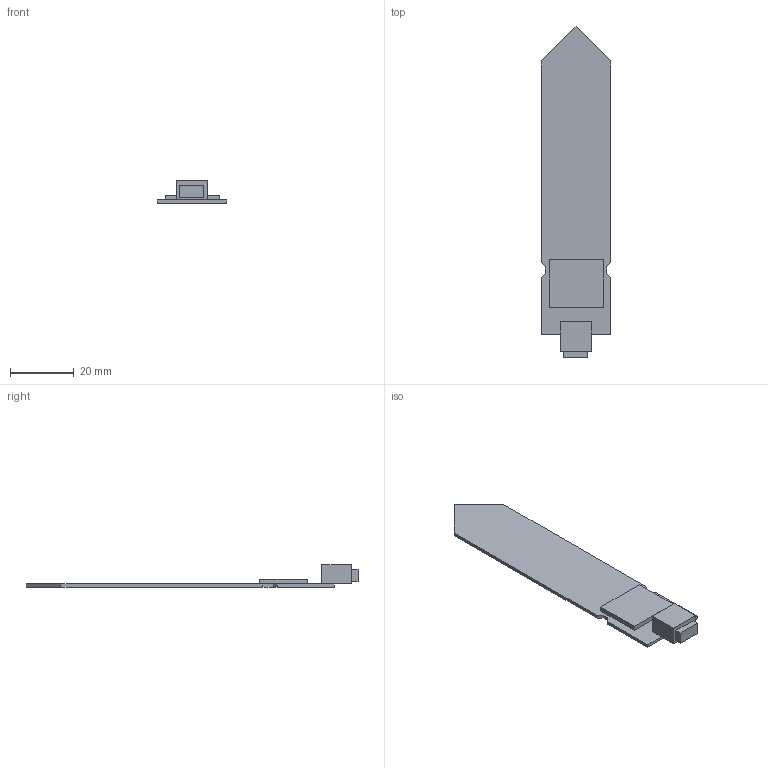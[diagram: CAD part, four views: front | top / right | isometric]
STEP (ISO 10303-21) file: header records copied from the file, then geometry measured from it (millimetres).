
FILE_DESCRIPTION(/* description */ (''),/* implementation_level */ '2;1');
FILE_NAME(/* name */ 'C:\Users\uhlma\OneDrive\Flaura\Produktentwicklung\Gehaeuse\CAD-Konstruktion\Prototyp 9\Thingiverse_Upload\Inventor\Dummy_Capacitive_Soil_Sensor.stp',/* time_stamp */ '2021-07-25T11:44:59+02:00',/* author */ ('uhlma'),/* organization */ (''),/* preprocessor_version */ 'ST-DEVELOPER v18',/* originating_system */ 'Autodesk Inventor 2020',/* authorisation */ '');
FILE_SCHEMA (('AUTOMOTIVE_DESIGN { 1 0 10303 214 3 1 1 }'));
Length unit declared in the file: millimetre
Products named in the file (1): CSM_Sensor_Dummy
Bounding box: 22 x 104.4 x 7 mm (x, y, z)
Volume: 3004.4 mm3; surface area: 4714.7 mm2
Topology: 1 solids, 1 shells, 31 faces, 79 edges, 52 vertices
Faces by surface type: plane 31
Entity records: 1000 total; most frequent: CARTESIAN_POINT 163, ORIENTED_EDGE 158, DIRECTION 143, LINE 79, VECTOR 79, EDGE_CURVE 79, VERTEX_POINT 52, EDGE_LOOP 33
